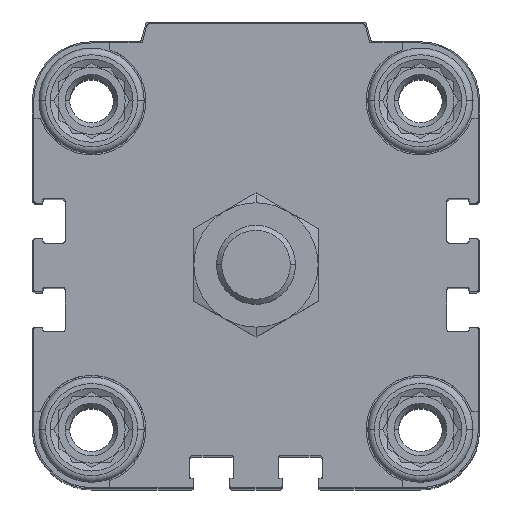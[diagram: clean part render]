
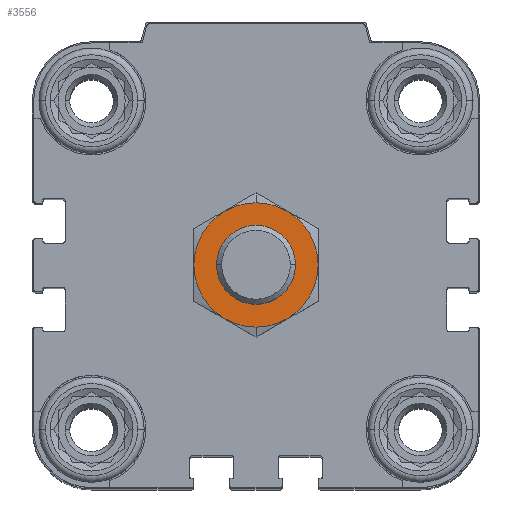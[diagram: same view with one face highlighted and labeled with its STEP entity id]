
A CAD part, top view. The second image highlights one B-rep face of the part: STEP entity #3556.
In plain terms, the highlighted planar face has unit normal (0, 0, 1).
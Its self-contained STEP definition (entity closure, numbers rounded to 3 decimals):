
#1385 = DIRECTION ( 'NONE',  ( 0., 0., -1. ) ) ;
#2117 = VERTEX_POINT ( 'NONE', #23480 ) ;
#3277 = CIRCLE ( 'NONE', #20875, 6. ) ;
#3387 = CARTESIAN_POINT ( 'NONE',  ( 0., -9.45, 18.5 ) ) ;
#3556 = ADVANCED_FACE ( 'NONE', ( #22114, #9252 ), #7430, .F. ) ;
#3660 = CARTESIAN_POINT ( 'NONE',  ( 0., 0., 18.5 ) ) ;
#4555 = ORIENTED_EDGE ( 'NONE', *, *, #11434, .T. ) ;
#7110 = DIRECTION ( 'NONE',  ( 0., 0., -1. ) ) ;
#7430 = PLANE ( 'NONE',  #10261 ) ;
#8073 = AXIS2_PLACEMENT_3D ( 'NONE', #10535, #18013, #14686 ) ;
#8238 = CARTESIAN_POINT ( 'NONE',  ( 0., 0., 18.5 ) ) ;
#8658 = CARTESIAN_POINT ( 'NONE',  ( 0., 6., 18.5 ) ) ;
#8776 = EDGE_CURVE ( 'NONE', #2117, #14566, #15885, .T. ) ;
#8928 = CARTESIAN_POINT ( 'NONE',  ( 0., -6., 18.5 ) ) ;
#9252 = FACE_BOUND ( 'NONE', #16096, .T. ) ;
#9377 = DIRECTION ( 'NONE',  ( 0., 0., -1. ) ) ;
#10261 = AXIS2_PLACEMENT_3D ( 'NONE', #14887, #9377, #24096 ) ;
#10535 = CARTESIAN_POINT ( 'NONE',  ( 0., 0., 18.5 ) ) ;
#11434 = EDGE_CURVE ( 'NONE', #13415, #20814, #19574, .T. ) ;
#12421 = CIRCLE ( 'NONE', #14381, 9.45 ) ;
#12866 = CARTESIAN_POINT ( 'NONE',  ( 0., 0., 18.5 ) ) ;
#12925 = EDGE_LOOP ( 'NONE', ( #19486, #20106 ) ) ;
#13415 = VERTEX_POINT ( 'NONE', #8658 ) ;
#13869 = DIRECTION ( 'NONE',  ( 0., -1., 0. ) ) ;
#14381 = AXIS2_PLACEMENT_3D ( 'NONE', #3660, #1385, #19625 ) ;
#14566 = VERTEX_POINT ( 'NONE', #3387 ) ;
#14686 = DIRECTION ( 'NONE',  ( 0., -1., 0. ) ) ;
#14695 = DIRECTION ( 'NONE',  ( 0., -1., 0. ) ) ;
#14887 = CARTESIAN_POINT ( 'NONE',  ( 0., 0., 18.5 ) ) ;
#15460 = DIRECTION ( 'NONE',  ( 0., 0., -1. ) ) ;
#15885 = CIRCLE ( 'NONE', #8073, 9.45 ) ;
#16096 = EDGE_LOOP ( 'NONE', ( #4555, #18999 ) ) ;
#17921 = EDGE_CURVE ( 'NONE', #20814, #13415, #3277, .T. ) ;
#18013 = DIRECTION ( 'NONE',  ( 0., 0., -1. ) ) ;
#18999 = ORIENTED_EDGE ( 'NONE', *, *, #17921, .T. ) ;
#19486 = ORIENTED_EDGE ( 'NONE', *, *, #23476, .F. ) ;
#19574 = CIRCLE ( 'NONE', #21901, 6. ) ;
#19625 = DIRECTION ( 'NONE',  ( 0., -1., 0. ) ) ;
#20106 = ORIENTED_EDGE ( 'NONE', *, *, #8776, .F. ) ;
#20814 = VERTEX_POINT ( 'NONE', #8928 ) ;
#20875 = AXIS2_PLACEMENT_3D ( 'NONE', #8238, #15460, #13869 ) ;
#21901 = AXIS2_PLACEMENT_3D ( 'NONE', #12866, #7110, #14695 ) ;
#22114 = FACE_OUTER_BOUND ( 'NONE', #12925, .T. ) ;
#23476 = EDGE_CURVE ( 'NONE', #14566, #2117, #12421, .T. ) ;
#23480 = CARTESIAN_POINT ( 'NONE',  ( 0., 9.45, 18.5 ) ) ;
#24096 = DIRECTION ( 'NONE',  ( 0., -1., 0. ) ) ;
